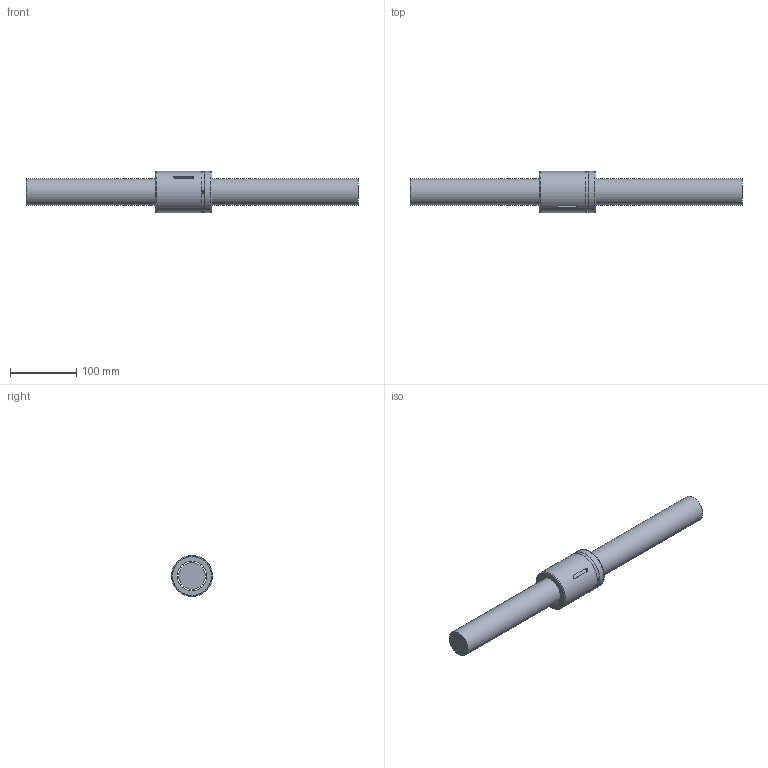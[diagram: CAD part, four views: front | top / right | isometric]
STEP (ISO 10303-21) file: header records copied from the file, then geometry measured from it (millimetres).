
FILE_DESCRIPTION (( 'STEP AP203' ), '1' );
FILE_NAME ('SCNI04010-4.step', '2024-05-23T03:18:37', ( '' ), ( '' ), 'SwSTEP 2.0', 'SolidWorks 2022', '' );
FILE_SCHEMA (( 'CONFIG_CONTROL_DESIGN' ));
Length unit declared in the file: millimetre
Products named in the file (1): SCNI04010-4
Bounding box: 500 x 62 x 62 mm (x, y, z)
Volume: 753741.5 mm3; surface area: 96745.2 mm2
Topology: 2 solids, 2 shells, 17 faces, 34 edges, 22 vertices
Faces by surface type: cylinder 7, plane 7, torus 3
Full cylindrical faces by diameter (mm): 3.5 x1, 40 x1, 44.1 x1, 62 x2
Entity records: 637 total; most frequent: CARTESIAN_POINT 238, DIRECTION 68, ORIENTED_EDGE 48, EDGE_LOOP 30, AXIS2_PLACEMENT_3D 30, FACE_OUTER_BOUND 25, EDGE_CURVE 24, VERTEX_POINT 20
